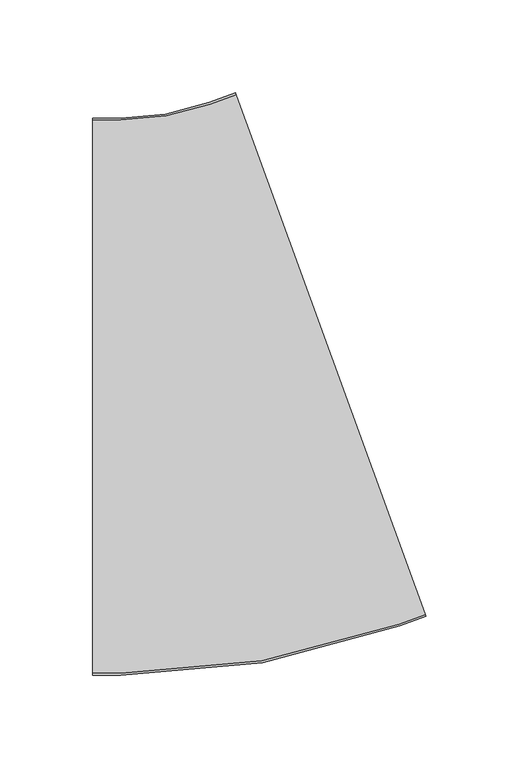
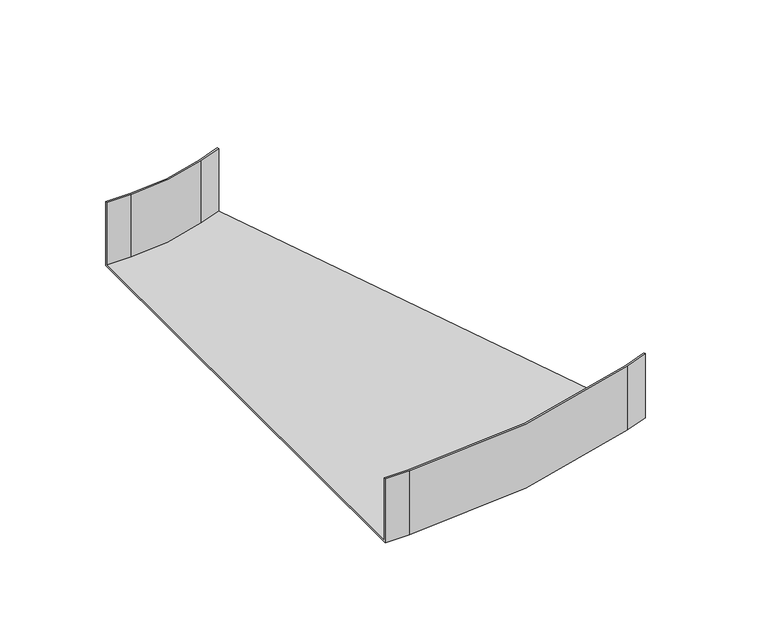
"""IFC4 building model written with IfcOpenShell, lengths in millimetres: cable carrier fitting geometry, BAKS_Adjustable bend : KKRPJ_H42."""

from ifc_helpers import new_model, si_unit, frame, origin, place, context, project, spatial, polyline, circle_curve, source, transform, mapped, element, save
from ifc_brep_helpers import plane_surface, cylinder_surface, revolved_surface, advanced_brep


def cable_carrier_fitting_0fee3a18(model_context):
    return source(origin(), model_context, "Body", "AdvancedBrep", [
        advanced_brep(
        [(-66.1348244, -150.0, -21.0), (-66.1348244, -150.0, 21.0), (-66.1348244, -149.0, 21.0), (-66.1348244, -149.0, -20.0), (-66.1348244, 149.0, -20.0), (-66.1348244, 149.0, 21.0), (-66.1348244, 150.0, 21.0), (-66.1348244, 150.0, -21.0), (113.449428, -118.334451, -21.0), (10.843385, 163.5733352, -21.0), (10.843385, 163.5733352, 21.0), (11.1854051, 162.6336426, 21.0), (11.1854051, 162.6336426, -20.0), (113.1074078, -117.3947584, -20.0), (113.1074078, -117.3947584, 21.0), (113.449428, -118.334451, 21.0), (-51.1348244, -150.0, -21.0), (-51.1348244, -150.0, 21.0), (99.3540387, -123.4647531, 21.0), (99.0120185, -122.5250605, 21.0), (-51.1348244, -149.0, 21.0), (-51.1348244, -149.0, -20.0), (99.0120185, -122.5250605, -20.0), (-2.9099842, 157.5033405, -20.0), (-51.1348244, 149.0, -20.0), (-51.1348244, 149.0, 21.0), (-2.9099842, 157.5033405, 21.0), (-3.2520043, 158.4430331, 21.0), (-51.1348244, 150.0, 21.0), (-51.1348244, 150.0, -21.0), (-3.2520043, 158.4430331, -21.0), (99.3540387, -123.4647531, -21.0)],
        [
            (0, 1),
            (1, 2),
            (2, 3),
            (3, 4),
            (4, 5),
            (5, 6),
            (6, 7),
            (7, 0),
            (8, 9),
            (9, 10),
            (10, 11),
            (11, 12),
            (12, 13),
            (13, 14),
            (14, 15),
            (15, 8),
            (0, 16),
            (16, 17),
            (17, 1),
            (17, 18, circle_curve(frame((-51.1348244, 290.0, 21.0), z_axis=(0.0, 0.0, 1.0), x_axis=(0.0, -1.0, 0.0)), 440.0)),
            (18, 15),
            (14, 19),
            (19, 20, circle_curve(frame((-51.1348244, 290.0, 21.0), z_axis=(0.0, 0.0, -1.0), x_axis=(0.0, -1.0, 0.0)), 439.0)),
            (20, 2),
            (20, 21),
            (21, 3),
            (21, 22, circle_curve(frame((-51.1348244, 290.0, -20.0), z_axis=(0.0, 0.0, 1.0), x_axis=(0.0, -1.0, 0.0)), 439.0)),
            (22, 13),
            (12, 23),
            (23, 24, circle_curve(frame((-51.1348244, 290.0, -20.0), z_axis=(0.0, 0.0, -1.0), x_axis=(0.0, -1.0, 0.0)), 141.0)),
            (24, 4),
            (24, 25),
            (25, 5),
            (25, 26, circle_curve(frame((-51.1348244, 290.0, 21.0), z_axis=(0.0, 0.0, 1.0), x_axis=(0.0, -1.0, 0.0)), 141.0)),
            (26, 11),
            (10, 27),
            (27, 28, circle_curve(frame((-51.1348244, 290.0, 21.0), z_axis=(0.0, 0.0, -1.0), x_axis=(0.0, -1.0, 0.0)), 140.0)),
            (28, 6),
            (28, 29),
            (29, 7),
            (29, 30, circle_curve(frame((-51.1348244, 290.0, -21.0), z_axis=(0.0, 0.0, 1.0), x_axis=(0.0, -1.0, 0.0)), 140.0)),
            (30, 9),
            (8, 31),
            (31, 16, circle_curve(frame((-51.1348244, 290.0, -21.0), z_axis=(0.0, 0.0, -1.0), x_axis=(0.0, -1.0, 0.0)), 440.0)),
            (31, 18),
            (19, 22),
            (23, 26),
            (27, 30),
        ],
        [
            plane_surface(frame((-66.1348244, 0.0, 0.0), z_axis=(-1.0, 0.0, 0.0), x_axis=(0.0, 0.0, 1.0))),
            plane_surface(frame((62.1464065, 22.6194421, 0.0), z_axis=(0.9396926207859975, 0.34202014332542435, 0.0), x_axis=(0.0, 0.0, 1.0))),
            plane_surface(frame((-66.1348244, -150.0, -21.0), z_axis=(0.0, -1.0, 0.0), x_axis=(1.0, 0.0, 0.0))),
            plane_surface(frame((-66.1348244, -150.0, 21.0), z_axis=(0.0, 0.0, 1.0), x_axis=(1.0, 0.0, 0.0))),
            plane_surface(frame((-66.1348244, -149.0, 21.0), z_axis=(0.0, 1.0, 0.0), x_axis=(1.0, 0.0, 0.0))),
            plane_surface(frame((-66.1348244, -149.0, -20.0), z_axis=(0.0, 0.0, 1.0), x_axis=(1.0, 0.0, 0.0))),
            plane_surface(frame((-66.1348244, 149.0, -20.0), z_axis=(0.0, -1.0, 0.0), x_axis=(1.0, 0.0, 0.0))),
            plane_surface(frame((-66.1348244, 149.0, 21.0), z_axis=(0.0, 0.0, 1.0), x_axis=(1.0, 0.0, 0.0))),
            plane_surface(frame((-66.1348244, 150.0, 21.0), z_axis=(0.0, 1.0, 0.0), x_axis=(1.0, 0.0, 0.0))),
            plane_surface(frame((-66.1348244, 150.0, -21.0), z_axis=(0.0, 0.0, -1.0), x_axis=(1.0, 0.0, 0.0))),
            cylinder_surface(frame((-51.1348244, 290.0, 0.0), z_axis=(0.0, 0.0, 1.0), x_axis=(0.0, -1.0, 0.0)), 440.0),
            revolved_surface(polyline([(-51.1348244, -149.0, 21.0), (-51.1348244, -149.0, -20.0)]), (-51.1348244, 290.0, 0.0), (0.0, 0.0, 1.0)),
            cylinder_surface(frame((-51.1348244, 290.0, 0.0), z_axis=(0.0, 0.0, 1.0), x_axis=(0.0, -1.0, 0.0)), 141.0),
            revolved_surface(polyline([(-51.1348244, 150.0, 21.0), (-51.1348244, 150.0, -21.0)]), (-51.1348244, 290.0, 0.0), (0.0, 0.0, 1.0)),
            plane_surface(frame((99.3540387, -123.4647531, -21.0), z_axis=(0.34202014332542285, -0.9396926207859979, 0.0), x_axis=(0.9396926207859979, 0.34202014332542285, 0.0))),
            plane_surface(frame((99.0120185, -122.5250605, 21.0), z_axis=(-0.34202014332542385, 0.9396926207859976, 0.0), x_axis=(0.9396926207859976, 0.34202014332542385, 0.0))),
            plane_surface(frame((-2.9099842, 157.5033405, -20.0), z_axis=(0.34202014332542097, -0.9396926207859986, 0.0), x_axis=(0.9396926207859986, 0.34202014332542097, 0.0))),
            plane_surface(frame((-3.2520043, 158.4430331, 21.0), z_axis=(-0.34202014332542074, 0.9396926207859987, 0.0), x_axis=(0.9396926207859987, 0.34202014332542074, 0.0))),
        ],
        [
            (0, [[1, 2, 3, 4, 5, 6, 7, 8]]),
            (1, [[9, 10, 11, 12, 13, 14, 15, 16]]),
            (2, [[-1, 17, 18, 19]]),
            (3, [[-2, -19, 20, 21, -15, 22, 23, 24]]),
            (4, [[-3, -24, 25, 26]]),
            (5, [[-4, -26, 27, 28, -13, 29, 30, 31]]),
            (6, [[-5, -31, 32, 33]]),
            (7, [[-6, -33, 34, 35, -11, 36, 37, 38]]),
            (8, [[-7, -38, 39, 40]]),
            (9, [[-8, -40, 41, 42, -9, 43, 44, -17]]),
            (10, [[-20, -18, -44, 45]]),
            (11, [[-27, -25, -23, 46]]),
            (12, [[-34, -32, -30, 47]]),
            (13, [[-41, -39, -37, 48]]),
            (14, [[-45, -43, -16, -21]]),
            (15, [[-46, -22, -14, -28]]),
            (16, [[-47, -29, -12, -35]]),
            (17, [[-48, -36, -10, -42]]),
        ],
    ),
    ])


if __name__ == "__main__":
    model = new_model("IFC4")
    model_context = context("Model", 3, world=origin())
    ifc_project = project(units=[si_unit("LENGTHUNIT", "METRE", prefix="MILLI")], contexts=[model_context])
    site = spatial("IfcSite", under=ifc_project)
    building = spatial("IfcBuilding", under=site)
    placement = place(None, origin())
    cable_carrier_fitting_shape = cable_carrier_fitting_0fee3a18(model_context)
    element("IfcCableCarrierFitting", 1, ObjectType="BAKS_Adjustable bend : KKRPJ_H42", at=placement, inside=building, context=model_context, shape_type="MappedRepresentation", body=[
        mapped(cable_carrier_fitting_shape, transform((0.0, 0.0, 0.0), x_axis=(1.0, 0.0, 0.0), y_axis=(0.0, 1.0, 0.0), z_axis=(0.0, 0.0, 1.0))),
    ])
    save(model, "model.ifc")
